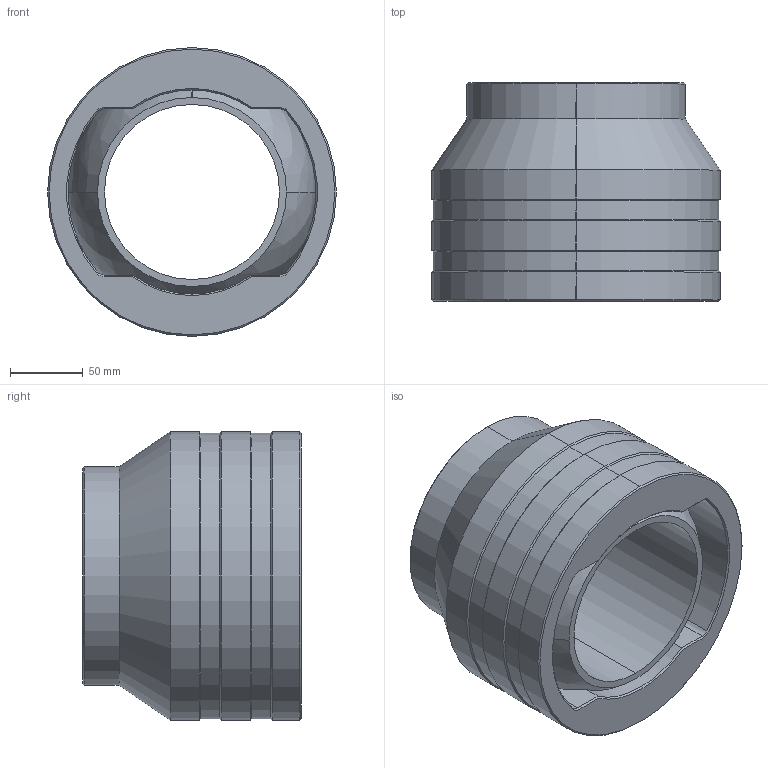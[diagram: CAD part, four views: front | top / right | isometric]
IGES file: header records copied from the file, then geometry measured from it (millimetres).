
Start section: 3D InterOp IGES (Version 20 0 1), Spatial Corp. Copyright (c) 1999-2007.
Global section: file name: 10.11.12.igs; native system: Spatial Corp.; preprocessor: 3D InterOp GENERIC/IGES 3.0; author: Noname; organization: Noname; date: 20111110.164215; units: metre
Bounding box: 198 x 150 x 198 mm (x, y, z)
Surface area: 286916.2 mm2 (no closed solid volume)
Topology: 0 solids, 0 shells, 75 faces, 2107 edges, 3878 vertices
Faces by surface type: revolution 62, extrusion 13
